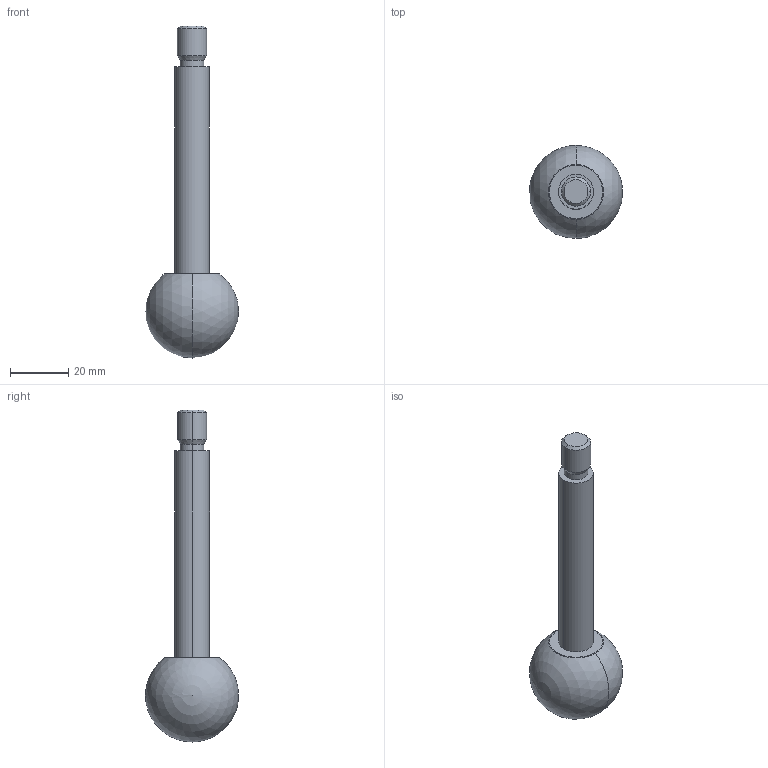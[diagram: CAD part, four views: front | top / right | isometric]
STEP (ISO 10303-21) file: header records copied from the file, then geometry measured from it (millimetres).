
FILE_DESCRIPTION (( 'STEP AP214' ), '1' );
FILE_NAME ('310-12-100-A-NI.step', '2023-08-07T10:03:08', ( '' ), ( '' ), 'SwSTEP 2.0', 'SolidWorks 2022', '' );
FILE_SCHEMA (( 'AUTOMOTIVE_DESIGN' ));
Length unit declared in the file: millimetre
Products named in the file (1): 310-12-100-A-NI
Bounding box: 32 x 31.97 x 114 mm (x, y, z)
Volume: 25772.1 mm3; surface area: 6302.5 mm2
Topology: 1 solids, 1 shells, 17 faces, 39 edges, 24 vertices
Faces by surface type: cylinder 6, cone 4, plane 3, torus 2, sphere 2
Entity records: 541 total; most frequent: DIRECTION 94, CARTESIAN_POINT 73, ORIENTED_EDGE 68, AXIS2_PLACEMENT_3D 42, EDGE_CURVE 34, CIRCLE 24, VERTEX_POINT 21, EDGE_LOOP 19
